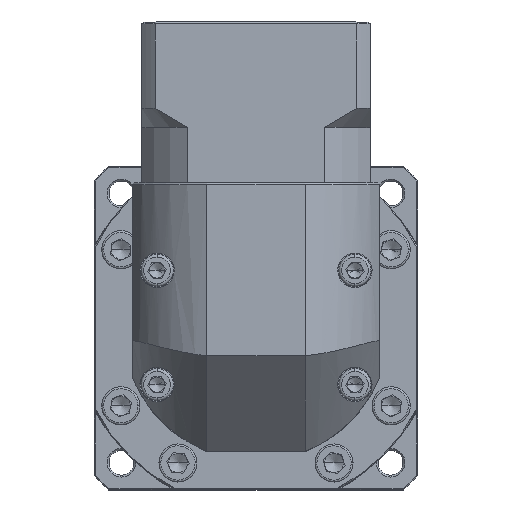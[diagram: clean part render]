
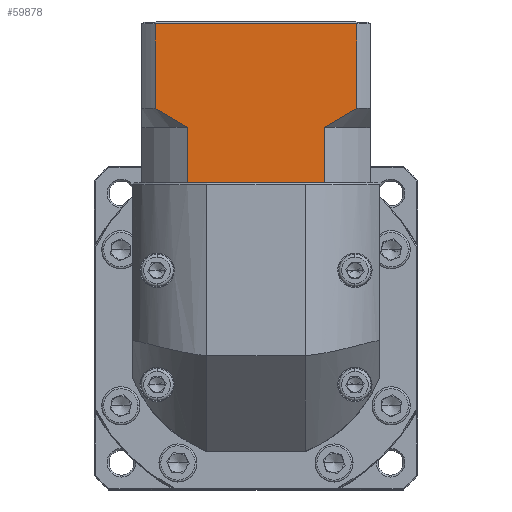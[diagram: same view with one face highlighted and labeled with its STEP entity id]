
A CAD part, top view. The second image highlights one B-rep face of the part: STEP entity #59878.
In plain terms, the highlighted planar face has unit normal (0, 0, 1).
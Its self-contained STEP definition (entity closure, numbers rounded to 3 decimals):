
#909 = EDGE_CURVE ( 'NONE', #51659, #3319, #100104, .T. ) ;
#1705 = CARTESIAN_POINT ( 'NONE',  ( -101.472, 67.308, 36.845 ) ) ;
#3319 = VERTEX_POINT ( 'NONE', #39428 ) ;
#4657 = EDGE_CURVE ( 'NONE', #95240, #55723, #14073, .T. ) ;
#6210 = LINE ( 'NONE', #78886, #51394 ) ;
#6936 = CARTESIAN_POINT ( 'NONE',  ( -108.45, 93.76, 36.845 ) ) ;
#7627 = VERTEX_POINT ( 'NONE', #119969 ) ;
#8005 = PLANE ( 'NONE',  #40128 ) ;
#8757 = EDGE_CURVE ( 'NONE', #3319, #49753, #74966, .T. ) ;
#9720 = CARTESIAN_POINT ( 'NONE',  ( -100.02, 52.06, 36.845 ) ) ;
#10530 = DIRECTION ( 'NONE',  ( 0., 1., 0. ) ) ;
#10828 = VECTOR ( 'NONE', #46358, 1000. ) ;
#12504 = CARTESIAN_POINT ( 'NONE',  ( -107.09, 70.661, 36.845 ) ) ;
#14073 = LINE ( 'NONE', #25682, #10828 ) ;
#15871 = CARTESIAN_POINT ( 'NONE',  ( -111.992, 93.76, 36.845 ) ) ;
#19101 = VERTEX_POINT ( 'NONE', #9720 ) ;
#20934 = CARTESIAN_POINT ( 'NONE',  ( -100.02, 66.56, 36.845 ) ) ;
#25682 = CARTESIAN_POINT ( 'NONE',  ( -55.535, 66.56, 36.845 ) ) ;
#26419 = CARTESIAN_POINT ( 'NONE',  ( -100.02, 66.56, 36.845 ) ) ;
#31412 = B_SPLINE_CURVE_WITH_KNOTS ( 'NONE', 3,
 ( #111974, #122344, #69387, #103011, #112885, #31960 ),
 .UNSPECIFIED., .F., .F.,
 ( 4, 2, 4 ),
 ( 0.1, 0.104, 0.109 ),
 .UNSPECIFIED. ) ;
#31960 = CARTESIAN_POINT ( 'NONE',  ( -55.535, 71.56, 36.845 ) ) ;
#32840 = CARTESIAN_POINT ( 'NONE',  ( -105.711, 69.788, 36.845 ) ) ;
#34699 = CARTESIAN_POINT ( 'NONE',  ( -111.992, 52.06, 36.845 ) ) ;
#36764 = CARTESIAN_POINT ( 'NONE',  ( -55.535, 71.56, 36.845 ) ) ;
#38852 = LINE ( 'NONE', #20934, #103281 ) ;
#39428 = CARTESIAN_POINT ( 'NONE',  ( -64.955, 52.06, 36.845 ) ) ;
#39804 = EDGE_CURVE ( 'NONE', #76611, #132975, #6210, .T. ) ;
#40128 = AXIS2_PLACEMENT_3D ( 'NONE', #68032, #111534, #102550 ) ;
#41541 = EDGE_CURVE ( 'NONE', #7627, #49753, #116513, .T. ) ;
#45291 = DIRECTION ( 'NONE',  ( 0., -1., 0. ) ) ;
#46191 = LINE ( 'NONE', #59763, #49448 ) ;
#46358 = DIRECTION ( 'NONE',  ( 0., -1., 0. ) ) ;
#48559 = ORIENTED_EDGE ( 'NONE', *, *, #75934, .T. ) ;
#49448 = VECTOR ( 'NONE', #132003, 1000. ) ;
#49753 = VERTEX_POINT ( 'NONE', #69610 ) ;
#51394 = VECTOR ( 'NONE', #98147, 1000. ) ;
#51659 = VERTEX_POINT ( 'NONE', #95080 ) ;
#53118 = CARTESIAN_POINT ( 'NONE',  ( -102.903, 68.112, 36.845 ) ) ;
#53554 = LINE ( 'NONE', #15871, #119445 ) ;
#55723 = VERTEX_POINT ( 'NONE', #36764 ) ;
#59763 = CARTESIAN_POINT ( 'NONE',  ( -111.992, 52.06, 36.845 ) ) ;
#59878 = ADVANCED_FACE ( 'NONE', ( #105781 ), #8005, .F. ) ;
#60880 = ORIENTED_EDGE ( 'NONE', *, *, #4657, .F. ) ;
#64618 = B_SPLINE_CURVE_WITH_KNOTS ( 'NONE', 3,
 ( #85020, #12504, #32840, #53118, #1705, #125441 ),
 .UNSPECIFIED., .F., .F.,
 ( 4, 2, 4 ),
 ( 0.052, 0.057, 0.062 ),
 .UNSPECIFIED. ) ;
#65291 = VECTOR ( 'NONE', #79440, 1000. ) ;
#65320 = ORIENTED_EDGE ( 'NONE', *, *, #92001, .T. ) ;
#67787 = CARTESIAN_POINT ( 'NONE',  ( -111.992, 52.06, 36.845 ) ) ;
#68032 = CARTESIAN_POINT ( 'NONE',  ( -111.992, 94.26, 36.845 ) ) ;
#68574 = ORIENTED_EDGE ( 'NONE', *, *, #909, .T. ) ;
#69387 = CARTESIAN_POINT ( 'NONE',  ( -61.082, 68.111, 36.845 ) ) ;
#69610 = CARTESIAN_POINT ( 'NONE',  ( -63.964, 52.06, 36.845 ) ) ;
#74966 = LINE ( 'NONE', #67787, #65291 ) ;
#75934 = EDGE_CURVE ( 'NONE', #76611, #121342, #64618, .T. ) ;
#76611 = VERTEX_POINT ( 'NONE', #127902 ) ;
#77006 = DIRECTION ( 'NONE',  ( 1., 0., 0. ) ) ;
#78886 = CARTESIAN_POINT ( 'NONE',  ( -108.45, 66.56, 36.845 ) ) ;
#79440 = DIRECTION ( 'NONE',  ( 1., 0., 0. ) ) ;
#80889 = EDGE_LOOP ( 'NONE', ( #60880, #88342, #82685, #48559, #124736, #65320, #68574, #96657, #117130, #115252 ) ) ;
#82685 = ORIENTED_EDGE ( 'NONE', *, *, #39804, .F. ) ;
#85020 = CARTESIAN_POINT ( 'NONE',  ( -108.45, 71.56, 36.845 ) ) ;
#85180 = CARTESIAN_POINT ( 'NONE',  ( -55.535, 93.76, 36.845 ) ) ;
#88342 = ORIENTED_EDGE ( 'NONE', *, *, #106951, .T. ) ;
#92001 = EDGE_CURVE ( 'NONE', #19101, #51659, #46191, .T. ) ;
#95080 = CARTESIAN_POINT ( 'NONE',  ( -99.029, 52.06, 36.845 ) ) ;
#95240 = VERTEX_POINT ( 'NONE', #85180 ) ;
#96657 = ORIENTED_EDGE ( 'NONE', *, *, #8757, .T. ) ;
#96886 = VECTOR ( 'NONE', #77006, 1000. ) ;
#96976 = CARTESIAN_POINT ( 'NONE',  ( -63.964, 66.56, 36.845 ) ) ;
#98147 = DIRECTION ( 'NONE',  ( 0., 1., 0. ) ) ;
#100104 = LINE ( 'NONE', #34699, #96886 ) ;
#102550 = DIRECTION ( 'NONE',  ( 0., 1., 0. ) ) ;
#103011 = CARTESIAN_POINT ( 'NONE',  ( -58.277, 69.785, 36.845 ) ) ;
#103281 = VECTOR ( 'NONE', #10530, 1000. ) ;
#105781 = FACE_OUTER_BOUND ( 'NONE', #80889, .T. ) ;
#106951 = EDGE_CURVE ( 'NONE', #95240, #132975, #53554, .T. ) ;
#111534 = DIRECTION ( 'NONE',  ( 0., 0., -1. ) ) ;
#111974 = CARTESIAN_POINT ( 'NONE',  ( -63.964, 66.56, 36.845 ) ) ;
#112885 = CARTESIAN_POINT ( 'NONE',  ( -56.897, 70.659, 36.845 ) ) ;
#115252 = ORIENTED_EDGE ( 'NONE', *, *, #118386, .T. ) ;
#116513 = LINE ( 'NONE', #96976, #121320 ) ;
#116649 = DIRECTION ( 'NONE',  ( -1., 0., 0. ) ) ;
#117130 = ORIENTED_EDGE ( 'NONE', *, *, #41541, .F. ) ;
#118386 = EDGE_CURVE ( 'NONE', #7627, #55723, #31412, .T. ) ;
#119445 = VECTOR ( 'NONE', #116649, 1000. ) ;
#119969 = CARTESIAN_POINT ( 'NONE',  ( -63.964, 66.56, 36.845 ) ) ;
#121320 = VECTOR ( 'NONE', #45291, 1000. ) ;
#121342 = VERTEX_POINT ( 'NONE', #26419 ) ;
#122344 = CARTESIAN_POINT ( 'NONE',  ( -62.508, 67.311, 36.845 ) ) ;
#124736 = ORIENTED_EDGE ( 'NONE', *, *, #125483, .F. ) ;
#125441 = CARTESIAN_POINT ( 'NONE',  ( -100.02, 66.56, 36.845 ) ) ;
#125483 = EDGE_CURVE ( 'NONE', #19101, #121342, #38852, .T. ) ;
#127902 = CARTESIAN_POINT ( 'NONE',  ( -108.45, 71.56, 36.845 ) ) ;
#132003 = DIRECTION ( 'NONE',  ( 1., 0., 0. ) ) ;
#132975 = VERTEX_POINT ( 'NONE', #6936 ) ;
